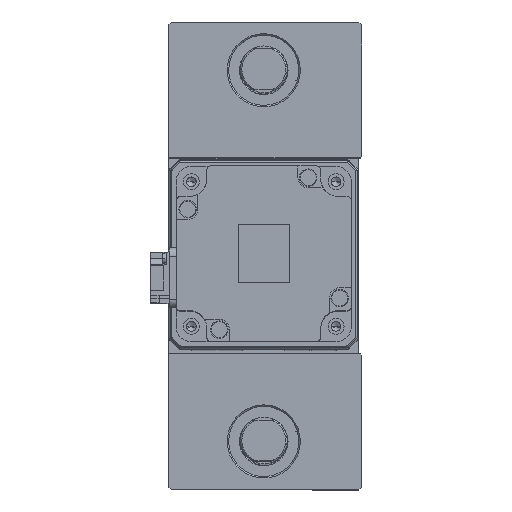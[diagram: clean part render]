
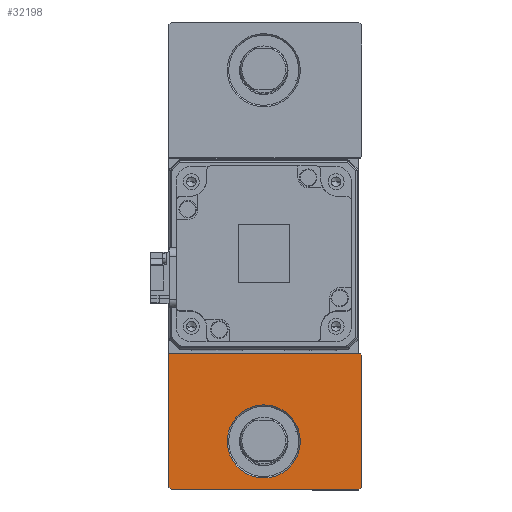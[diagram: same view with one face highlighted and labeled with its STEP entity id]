
A CAD part, top view. The second image highlights one B-rep face of the part: STEP entity #32198.
In plain terms, the highlighted planar face has unit normal (0, 0, 1).
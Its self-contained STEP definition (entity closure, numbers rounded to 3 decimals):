
#464 = VECTOR ( 'NONE', #33747, 1000. ) ;
#669 = CARTESIAN_POINT ( 'NONE',  ( 32.5, -80., 25. ) ) ;
#724 = EDGE_CURVE ( 'NONE', #2140, #19925, #31043, .T. ) ;
#1109 = AXIS2_PLACEMENT_3D ( 'NONE', #31841, #2458, #23051 ) ;
#2140 = VERTEX_POINT ( 'NONE', #29277 ) ;
#2170 = EDGE_CURVE ( 'NONE', #7006, #7893, #32803, .T. ) ;
#2458 = DIRECTION ( 'NONE',  ( 0., 0., 1. ) ) ;
#2854 = DIRECTION ( 'NONE',  ( 0., 1., 0. ) ) ;
#3617 = VECTOR ( 'NONE', #10429, 1000. ) ;
#3692 = CARTESIAN_POINT ( 'NONE',  ( 33.5, -34., 25. ) ) ;
#3906 = LINE ( 'NONE', #14587, #34405 ) ;
#4507 = CARTESIAN_POINT ( 'NONE',  ( 56.25, -56.25, 25. ) ) ;
#4567 = LINE ( 'NONE', #22136, #3617 ) ;
#5023 = DIRECTION ( 'NONE',  ( 0., 0., -1. ) ) ;
#5099 = CARTESIAN_POINT ( 'NONE',  ( -12.5, -63.5, 25. ) ) ;
#5660 = VERTEX_POINT ( 'NONE', #3692 ) ;
#6845 = CARTESIAN_POINT ( 'NONE',  ( 33.5, -79., 25. ) ) ;
#7006 = VERTEX_POINT ( 'NONE', #18141 ) ;
#7168 = CARTESIAN_POINT ( 'NONE',  ( -55.75, -55.75, 25. ) ) ;
#7481 = DIRECTION ( 'NONE',  ( 0.707, 0.707, 0. ) ) ;
#7893 = VERTEX_POINT ( 'NONE', #25419 ) ;
#8328 = LINE ( 'NONE', #7168, #464 ) ;
#8842 = ORIENTED_EDGE ( 'NONE', *, *, #2170, .T. ) ;
#8953 = EDGE_LOOP ( 'NONE', ( #30549, #31813, #22098, #36140, #9262, #8842, #29935 ) ) ;
#9262 = ORIENTED_EDGE ( 'NONE', *, *, #12039, .T. ) ;
#10429 = DIRECTION ( 'NONE',  ( -1., 0., 0. ) ) ;
#11064 = AXIS2_PLACEMENT_3D ( 'NONE', #15646, #36270, #18616 ) ;
#11112 = VERTEX_POINT ( 'NONE', #6845 ) ;
#11323 = EDGE_CURVE ( 'NONE', #19925, #2140, #18025, .T. ) ;
#11769 = EDGE_LOOP ( 'NONE', ( #34548, #16456 ) ) ;
#12039 = EDGE_CURVE ( 'NONE', #26288, #7006, #4567, .T. ) ;
#14020 = EDGE_CURVE ( 'NONE', #5660, #26288, #33478, .T. ) ;
#14347 = FACE_OUTER_BOUND ( 'NONE', #8953, .T. ) ;
#14382 = CARTESIAN_POINT ( 'NONE',  ( -0.25, -0.25, 25. ) ) ;
#14587 = CARTESIAN_POINT ( 'NONE',  ( 33.5, -33.5, 25. ) ) ;
#15646 = CARTESIAN_POINT ( 'NONE',  ( 0., -63.5, 25. ) ) ;
#16456 = ORIENTED_EDGE ( 'NONE', *, *, #11323, .T. ) ;
#17382 = DIRECTION ( 'NONE',  ( -0.707, 0.707, 0. ) ) ;
#17825 = VECTOR ( 'NONE', #17382, 1000. ) ;
#18025 = CIRCLE ( 'NONE', #29014, 12.5 ) ;
#18141 = CARTESIAN_POINT ( 'NONE',  ( -32.5, -33.5, 25. ) ) ;
#18616 = DIRECTION ( 'NONE',  ( 1., 0., 0. ) ) ;
#19925 = VERTEX_POINT ( 'NONE', #5099 ) ;
#20354 = DIRECTION ( 'NONE',  ( 1., 0., 0. ) ) ;
#20654 = DIRECTION ( 'NONE',  ( 0., -1., 0. ) ) ;
#21121 = LINE ( 'NONE', #4507, #35907 ) ;
#22098 = ORIENTED_EDGE ( 'NONE', *, *, #23872, .T. ) ;
#22136 = CARTESIAN_POINT ( 'NONE',  ( -32.5, -33.5, 25. ) ) ;
#22396 = VECTOR ( 'NONE', #20354, 1000. ) ;
#22711 = CARTESIAN_POINT ( 'NONE',  ( 0., -63.5, 25. ) ) ;
#22809 = PLANE ( 'NONE',  #1109 ) ;
#23022 = VERTEX_POINT ( 'NONE', #27260 ) ;
#23051 = DIRECTION ( 'NONE',  ( 1., 0., 0. ) ) ;
#23481 = CARTESIAN_POINT ( 'NONE',  ( -32.5, -33.5, 25. ) ) ;
#23872 = EDGE_CURVE ( 'NONE', #11112, #5660, #3906, .T. ) ;
#24950 = VECTOR ( 'NONE', #20654, 1000. ) ;
#25419 = CARTESIAN_POINT ( 'NONE',  ( -32.5, -79., 25. ) ) ;
#25686 = DIRECTION ( 'NONE',  ( 1., 0., 0. ) ) ;
#26150 = CARTESIAN_POINT ( 'NONE',  ( -32.5, -80., 25. ) ) ;
#26288 = VERTEX_POINT ( 'NONE', #32104 ) ;
#27260 = CARTESIAN_POINT ( 'NONE',  ( -31.5, -80., 25. ) ) ;
#27855 = EDGE_CURVE ( 'NONE', #33018, #11112, #21121, .T. ) ;
#29014 = AXIS2_PLACEMENT_3D ( 'NONE', #22711, #5023, #25686 ) ;
#29277 = CARTESIAN_POINT ( 'NONE',  ( 12.5, -63.5, 25. ) ) ;
#29935 = ORIENTED_EDGE ( 'NONE', *, *, #32543, .T. ) ;
#30223 = LINE ( 'NONE', #26150, #22396 ) ;
#30549 = ORIENTED_EDGE ( 'NONE', *, *, #37763, .T. ) ;
#31043 = CIRCLE ( 'NONE', #11064, 12.5 ) ;
#31813 = ORIENTED_EDGE ( 'NONE', *, *, #27855, .T. ) ;
#31841 = CARTESIAN_POINT ( 'NONE',  ( 0., 0., 25. ) ) ;
#32104 = CARTESIAN_POINT ( 'NONE',  ( 33., -33.5, 25. ) ) ;
#32198 = ADVANCED_FACE ( 'NONE', ( #37896, #14347 ), #22809, .T. ) ;
#32543 = EDGE_CURVE ( 'NONE', #7893, #23022, #8328, .T. ) ;
#32803 = LINE ( 'NONE', #23481, #24950 ) ;
#33018 = VERTEX_POINT ( 'NONE', #669 ) ;
#33478 = LINE ( 'NONE', #14382, #17825 ) ;
#33747 = DIRECTION ( 'NONE',  ( 0.707, -0.707, 0. ) ) ;
#34405 = VECTOR ( 'NONE', #2854, 1000. ) ;
#34548 = ORIENTED_EDGE ( 'NONE', *, *, #724, .T. ) ;
#35907 = VECTOR ( 'NONE', #7481, 1000. ) ;
#36140 = ORIENTED_EDGE ( 'NONE', *, *, #14020, .T. ) ;
#36270 = DIRECTION ( 'NONE',  ( 0., 0., -1. ) ) ;
#37763 = EDGE_CURVE ( 'NONE', #23022, #33018, #30223, .T. ) ;
#37896 = FACE_BOUND ( 'NONE', #11769, .T. ) ;
